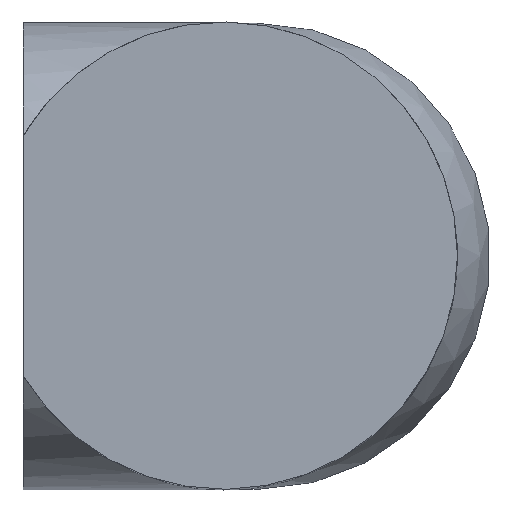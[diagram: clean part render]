
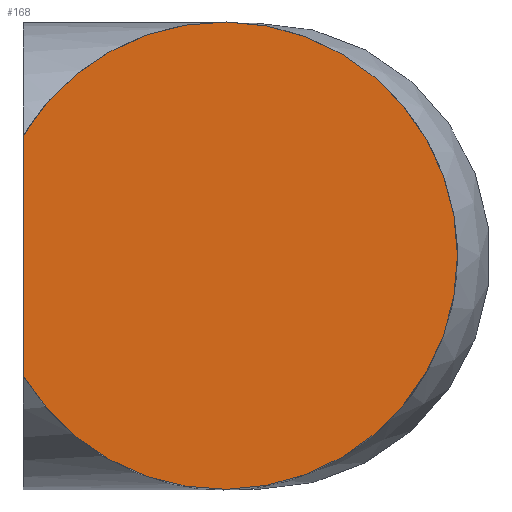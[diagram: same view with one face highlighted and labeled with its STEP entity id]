
A CAD part, top view. The second image highlights one B-rep face of the part: STEP entity #168.
In plain terms, the highlighted planar face has unit normal (0, 0, 1).
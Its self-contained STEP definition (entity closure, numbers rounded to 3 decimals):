
#23=CIRCLE('',#195,2.1);
#35=FACE_OUTER_BOUND('',#45,.T.);
#45=EDGE_LOOP('',(#119,#120));
#56=LINE('',#282,#65);
#65=VECTOR('',#221,10.);
#72=VERTEX_POINT('',#276);
#74=VERTEX_POINT('',#280);
#90=EDGE_CURVE('',#72,#74,#56,.T.);
#94=EDGE_CURVE('',#74,#72,#23,.T.);
#119=ORIENTED_EDGE('',*,*,#90,.T.);
#120=ORIENTED_EDGE('',*,*,#94,.T.);
#161=PLANE('',#194);
#168=ADVANCED_FACE('',(#35),#161,.T.);
#194=AXIS2_PLACEMENT_3D('',#289,#229,#230);
#195=AXIS2_PLACEMENT_3D('',#290,#231,#232);
#221=DIRECTION('',(0.,-1.,0.));
#229=DIRECTION('center_axis',(0.,0.,1.));
#230=DIRECTION('ref_axis',(1.,0.,0.));
#231=DIRECTION('center_axis',(0.,0.,1.));
#232=DIRECTION('ref_axis',(1.,0.,0.));
#276=CARTESIAN_POINT('',(-1.799,3.083,-3.55));
#280=CARTESIAN_POINT('',(-1.799,0.917,-3.55));
#282=CARTESIAN_POINT('',(-1.799,2.,-3.55));
#289=CARTESIAN_POINT('Origin',(0.,2.,-3.55));
#290=CARTESIAN_POINT('Origin',(0.,2.,-3.55));
